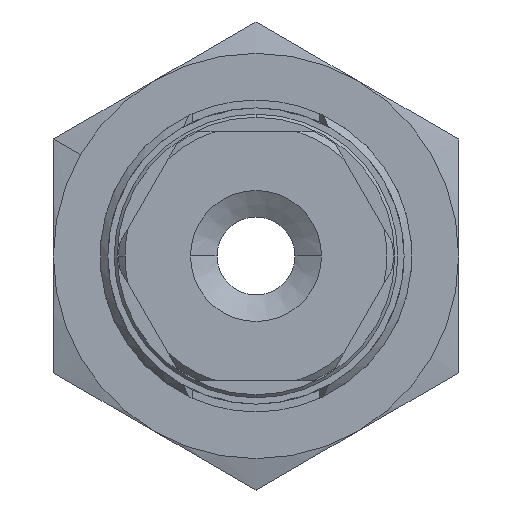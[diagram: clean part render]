
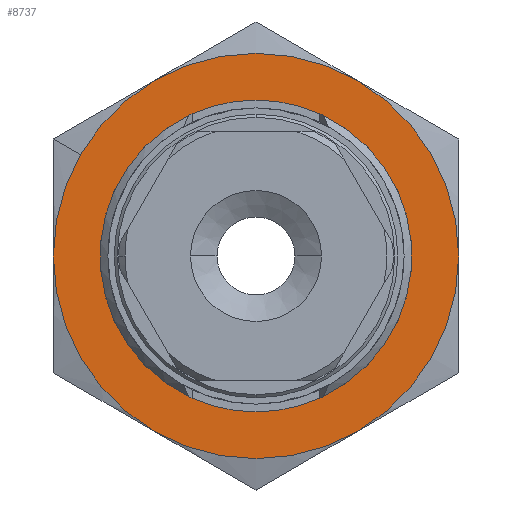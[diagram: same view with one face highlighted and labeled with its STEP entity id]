
A CAD part, front view. The second image highlights one B-rep face of the part: STEP entity #8737.
In plain terms, the highlighted planar face has unit normal (0, -1, 0).
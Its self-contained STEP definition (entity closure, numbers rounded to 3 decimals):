
#144 = DIRECTION ( 'NONE',  ( 0., -1., 0. ) ) ;
#160 = CARTESIAN_POINT ( 'NONE',  ( -6.5, 10., 0. ) ) ;
#204 = DIRECTION ( 'NONE',  ( -0.866, 0., 0.5 ) ) ;
#239 = ORIENTED_EDGE ( 'NONE', *, *, #283, .F. ) ;
#272 = CARTESIAN_POINT ( 'NONE',  ( -3.25, 10., -5.629 ) ) ;
#283 = EDGE_CURVE ( 'NONE', #7454, #2190, #5110, .T. ) ;
#315 = DIRECTION ( 'NONE',  ( 0., -1., 0. ) ) ;
#344 = AXIS2_PLACEMENT_3D ( 'NONE', #3968, #4673, #6691 ) ;
#399 = CIRCLE ( 'NONE', #3261, 6.5 ) ;
#473 = AXIS2_PLACEMENT_3D ( 'NONE', #1186, #3950, #8659 ) ;
#608 = EDGE_LOOP ( 'NONE', ( #239, #4564 ) ) ;
#691 = FACE_OUTER_BOUND ( 'NONE', #7910, .T. ) ;
#895 = EDGE_CURVE ( 'NONE', #7098, #1082, #2490, .T. ) ;
#1007 = CARTESIAN_POINT ( 'NONE',  ( 0., 10., 0. ) ) ;
#1082 = VERTEX_POINT ( 'NONE', #6178 ) ;
#1140 = DIRECTION ( 'NONE',  ( 0., -1., 0. ) ) ;
#1183 = DIRECTION ( 'NONE',  ( 0.866, 0., -0.5 ) ) ;
#1186 = CARTESIAN_POINT ( 'NONE',  ( 0., 10., 0. ) ) ;
#1224 = AXIS2_PLACEMENT_3D ( 'NONE', #5217, #3980, #8090 ) ;
#1312 = DIRECTION ( 'NONE',  ( 0., -1., 0. ) ) ;
#1488 = CIRCLE ( 'NONE', #473, 6.5 ) ;
#1622 = CARTESIAN_POINT ( 'NONE',  ( 0., 10., 0. ) ) ;
#1657 = CARTESIAN_POINT ( 'NONE',  ( -3.25, 10., 5.629 ) ) ;
#1672 = CIRCLE ( 'NONE', #4234, 6.5 ) ;
#1754 = CARTESIAN_POINT ( 'NONE',  ( 0., 10., 0. ) ) ;
#1758 = EDGE_CURVE ( 'NONE', #6710, #3904, #6931, .T. ) ;
#1849 = DIRECTION ( 'NONE',  ( -0.866, 0., 0.5 ) ) ;
#1908 = AXIS2_PLACEMENT_3D ( 'NONE', #6267, #144, #2405 ) ;
#2121 = PLANE ( 'NONE',  #3046 ) ;
#2190 = VERTEX_POINT ( 'NONE', #6052 ) ;
#2341 = ORIENTED_EDGE ( 'NONE', *, *, #8602, .T. ) ;
#2350 = ORIENTED_EDGE ( 'NONE', *, *, #7606, .T. ) ;
#2405 = DIRECTION ( 'NONE',  ( -0.866, 0., 0.5 ) ) ;
#2490 = CIRCLE ( 'NONE', #344, 6.5 ) ;
#2645 = EDGE_CURVE ( 'NONE', #8302, #6710, #1672, .T. ) ;
#2837 = CARTESIAN_POINT ( 'NONE',  ( 6.5, 10., -11.258 ) ) ;
#2946 = VERTEX_POINT ( 'NONE', #7821 ) ;
#3046 = AXIS2_PLACEMENT_3D ( 'NONE', #2837, #3420, #6136 ) ;
#3261 = AXIS2_PLACEMENT_3D ( 'NONE', #1007, #1140, #1183 ) ;
#3337 = CIRCLE ( 'NONE', #4471, 4.5 ) ;
#3420 = DIRECTION ( 'NONE',  ( 0., 1., 0. ) ) ;
#3513 = CARTESIAN_POINT ( 'NONE',  ( 3.897, 10., -2.25 ) ) ;
#3758 = DIRECTION ( 'NONE',  ( 0., -1., 0. ) ) ;
#3904 = VERTEX_POINT ( 'NONE', #4620 ) ;
#3950 = DIRECTION ( 'NONE',  ( 0., -1., 0. ) ) ;
#3968 = CARTESIAN_POINT ( 'NONE',  ( 0., 10., 0. ) ) ;
#3980 = DIRECTION ( 'NONE',  ( 0., -1., 0. ) ) ;
#4180 = DIRECTION ( 'NONE',  ( 0., -1., 0. ) ) ;
#4234 = AXIS2_PLACEMENT_3D ( 'NONE', #8148, #1312, #1849 ) ;
#4471 = AXIS2_PLACEMENT_3D ( 'NONE', #1754, #315, #6529 ) ;
#4564 = ORIENTED_EDGE ( 'NONE', *, *, #8849, .F. ) ;
#4620 = CARTESIAN_POINT ( 'NONE',  ( 3.25, 10., -5.629 ) ) ;
#4673 = DIRECTION ( 'NONE',  ( 0., -1., 0. ) ) ;
#5105 = CARTESIAN_POINT ( 'NONE',  ( 3.25, 10., 5.629 ) ) ;
#5110 = CIRCLE ( 'NONE', #8549, 4.5 ) ;
#5217 = CARTESIAN_POINT ( 'NONE',  ( 0., 10., 0. ) ) ;
#5463 = CIRCLE ( 'NONE', #1908, 6.5 ) ;
#5508 = CARTESIAN_POINT ( 'NONE',  ( 0., 10., 0. ) ) ;
#5592 = EDGE_CURVE ( 'NONE', #1082, #8302, #5463, .T. ) ;
#6052 = CARTESIAN_POINT ( 'NONE',  ( -3.897, 10., 2.25 ) ) ;
#6136 = DIRECTION ( 'NONE',  ( -0.866, 0., 0.5 ) ) ;
#6178 = CARTESIAN_POINT ( 'NONE',  ( -5.629, 10., 3.25 ) ) ;
#6191 = ORIENTED_EDGE ( 'NONE', *, *, #895, .T. ) ;
#6267 = CARTESIAN_POINT ( 'NONE',  ( 0., 10., 0. ) ) ;
#6273 = FACE_BOUND ( 'NONE', #608, .T. ) ;
#6392 = ORIENTED_EDGE ( 'NONE', *, *, #8244, .T. ) ;
#6396 = DIRECTION ( 'NONE',  ( 0.866, 0., -0.5 ) ) ;
#6529 = DIRECTION ( 'NONE',  ( 0.866, 0., -0.5 ) ) ;
#6691 = DIRECTION ( 'NONE',  ( -0.866, 0., 0.5 ) ) ;
#6710 = VERTEX_POINT ( 'NONE', #272 ) ;
#6790 = CIRCLE ( 'NONE', #6936, 6.5 ) ;
#6931 = CIRCLE ( 'NONE', #1224, 6.5 ) ;
#6936 = AXIS2_PLACEMENT_3D ( 'NONE', #5508, #4180, #204 ) ;
#7098 = VERTEX_POINT ( 'NONE', #1657 ) ;
#7454 = VERTEX_POINT ( 'NONE', #3513 ) ;
#7477 = ORIENTED_EDGE ( 'NONE', *, *, #2645, .T. ) ;
#7606 = EDGE_CURVE ( 'NONE', #2946, #8419, #399, .T. ) ;
#7821 = CARTESIAN_POINT ( 'NONE',  ( 6.5, 10., 0. ) ) ;
#7910 = EDGE_LOOP ( 'NONE', ( #6191, #8585, #7477, #8322, #6392, #2350, #2341 ) ) ;
#8090 = DIRECTION ( 'NONE',  ( -0.866, 0., 0.5 ) ) ;
#8148 = CARTESIAN_POINT ( 'NONE',  ( 0., 10., 0. ) ) ;
#8244 = EDGE_CURVE ( 'NONE', #3904, #2946, #6790, .T. ) ;
#8302 = VERTEX_POINT ( 'NONE', #160 ) ;
#8322 = ORIENTED_EDGE ( 'NONE', *, *, #1758, .T. ) ;
#8419 = VERTEX_POINT ( 'NONE', #5105 ) ;
#8549 = AXIS2_PLACEMENT_3D ( 'NONE', #1622, #3758, #6396 ) ;
#8585 = ORIENTED_EDGE ( 'NONE', *, *, #5592, .T. ) ;
#8602 = EDGE_CURVE ( 'NONE', #8419, #7098, #1488, .T. ) ;
#8659 = DIRECTION ( 'NONE',  ( -0.866, 0., 0.5 ) ) ;
#8737 = ADVANCED_FACE ( 'NONE', ( #6273, #691 ), #2121, .F. ) ;
#8849 = EDGE_CURVE ( 'NONE', #2190, #7454, #3337, .T. ) ;
